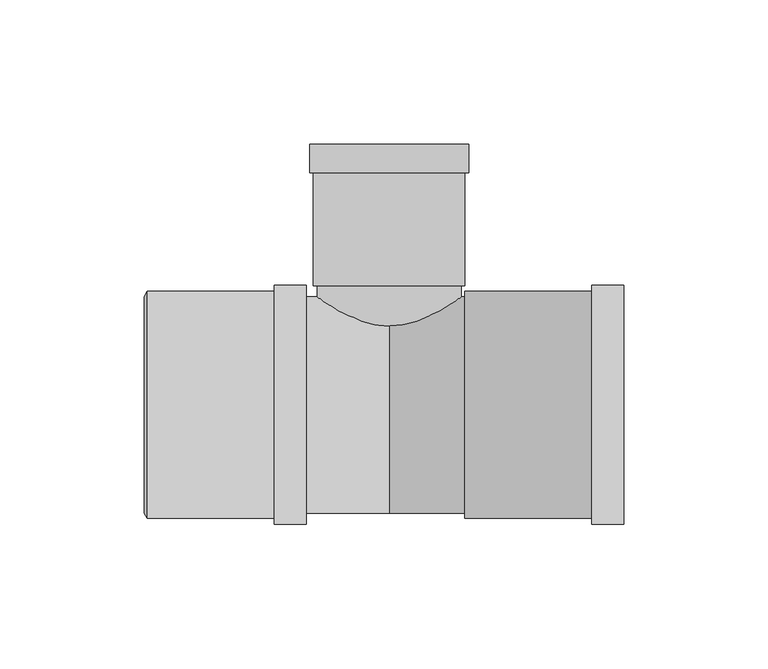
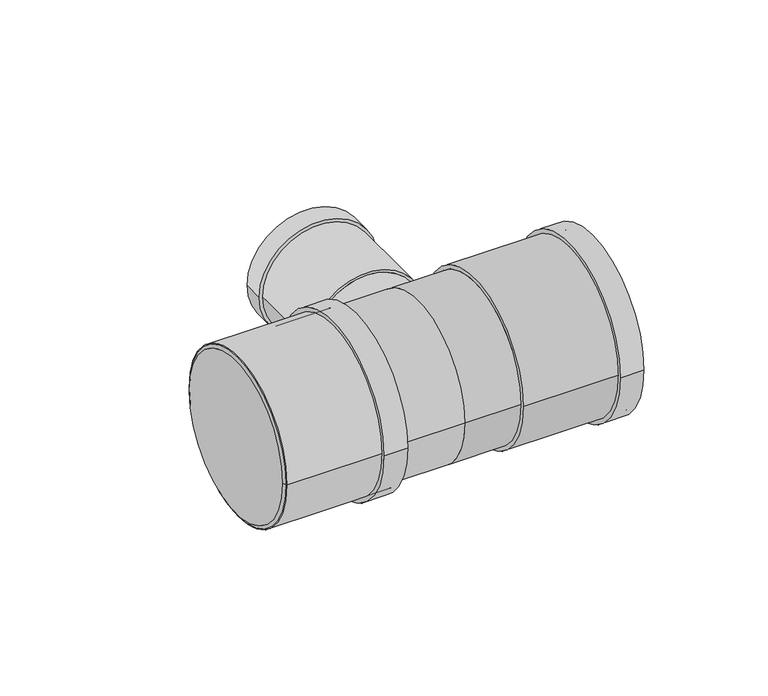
"""IFC4 building model written with IfcOpenShell, lengths in millimetres: pipe fitting geometry, Superdrain HTEA Branch : Superdrain HTEA Branch."""

from ifc_helpers import new_model, si_unit, point, frame, origin, origin_2d, place, context, project, spatial, polyline, circle_curve, trimmed, segment, composite_curve, outline, extrude, source, transform, mapped, element, save
from ifc_brep_helpers import plane_surface, revolved_surface, advanced_brep


def pipe_fitting_f1989bd6(model_context):
    return source(origin(), model_context, "Body", "SolidModel", [
        extrude(outline(composite_curve([segment(trimmed(circle_curve(origin_2d(), 39.375), [point((39.375, 0.0))], [point((-39.375, 0.0))], False, "CARTESIAN"), True, "CONTINUOUS"), segment(trimmed(circle_curve(origin_2d(), 39.375), [point((-39.375, 0.0))], [point((39.375, 0.0))], False, "CARTESIAN"), True, "CONTINUOUS")], self_intersect=False), holes=[composite_curve([segment(trimmed(circle_curve(origin_2d(), 37.5), [point((37.5, 0.0))], [point((-37.5, 0.0))], True, "CARTESIAN"), True, "CONTINUOUS"), segment(trimmed(circle_curve(origin_2d(), 37.5), [point((-37.5, 0.0))], [point((37.5, 0.0))], True, "CARTESIAN"), True, "CONTINUOUS")], self_intersect=False)]), frame((-83.8, 0.0, 0.0), z_axis=(1.0, 0.0, 0.0), x_axis=(0.0, 1.0, 0.0)), (0.0, 0.0, 1.0), 55.0),
        extrude(outline(composite_curve([segment(trimmed(circle_curve(origin_2d(), 41.34375), [point((41.34375, 0.0))], [point((-41.34375, 0.0))], False, "CARTESIAN"), True, "CONTINUOUS"), segment(trimmed(circle_curve(origin_2d(), 41.34375), [point((-41.34375, 0.0))], [point((41.34375, 0.0))], False, "CARTESIAN"), True, "CONTINUOUS")], self_intersect=False), holes=[composite_curve([segment(trimmed(circle_curve(origin_2d(), 37.5), [point((37.5, 0.0))], [point((-37.5, 0.0))], True, "CARTESIAN"), True, "CONTINUOUS"), segment(trimmed(circle_curve(origin_2d(), 37.5), [point((-37.5, 0.0))], [point((37.5, 0.0))], True, "CARTESIAN"), True, "CONTINUOUS")], self_intersect=False)]), frame((-39.8, 0.0, 0.0), z_axis=(1.0, 0.0, 0.0), x_axis=(0.0, 1.0, 0.0)), (0.0, 0.0, 1.0), 11.0),
        advanced_brep(
        [(-84.8, 37.5, 0.0), (-84.8, -37.5, 0.0), (-83.8, 39.375, 0.0), (-83.8, -39.375, 0.0)],
        [
            (0, 1, circle_curve(frame((-84.8, 0.0, 0.0), z_axis=(-1.0, 0.0, 0.0), x_axis=(0.0, 1.0, 0.0)), 37.5)),
            (1, 0, circle_curve(frame((-84.8, 0.0, 0.0), z_axis=(-1.0, 0.0, 0.0), x_axis=(0.0, -1.0, 0.0)), 37.5)),
            (2, 3, circle_curve(frame((-83.8, 0.0, 0.0), z_axis=(1.0, 0.0, 0.0), x_axis=(0.0, -1.0, 0.0)), 39.375)),
            (3, 2, circle_curve(frame((-83.8, 0.0, 0.0), z_axis=(1.0, 0.0, 0.0), x_axis=(0.0, 1.0, 0.0)), 39.375)),
            (3, 1),
            (0, 2),
        ],
        [
            plane_surface(frame((-84.8, 0.0, 0.0), z_axis=(-1.0, 0.0, 0.0), x_axis=(0.0, 0.0, -1.0))),
            plane_surface(frame((-83.8, 0.0, 0.0), z_axis=(1.0, 0.0, 0.0), x_axis=(0.0, 0.0, -1.0))),
            revolved_surface(polyline([(-84.8, 37.5, 0.0), (-83.8, 39.375, 0.0)]), (-104.8, 0.0, 0.0), (1.0, 0.0, 0.0)),
            revolved_surface(polyline([(-84.8, -37.5, 0.0), (-83.8, -39.375, 0.0)]), (-104.8, 0.0, 0.0), (1.0, 0.0, 0.0)),
        ],
        [
            (0, [[1, 2]]),
            (1, [[3, 4]]),
            (2, [[-4, 5, -1, 6]]),
            (3, [[-3, -6, -2, -5]]),
        ],
    ),
        extrude(outline(composite_curve([segment(trimmed(circle_curve(origin_2d(), 39.375), [point((-39.375, 0.0))], [point((39.375, 0.0))], False, "CARTESIAN"), True, "CONTINUOUS"), segment(trimmed(circle_curve(origin_2d(), 39.375), [point((39.375, 0.0))], [point((-39.375, 0.0))], False, "CARTESIAN"), True, "CONTINUOUS")], self_intersect=False), holes=[composite_curve([segment(trimmed(circle_curve(origin_2d(), 37.5), [point((37.5, 0.0))], [point((-37.5, 0.0))], True, "CARTESIAN"), True, "CONTINUOUS"), segment(trimmed(circle_curve(origin_2d(), 37.5), [point((-37.5, 0.0))], [point((37.5, 0.0))], True, "CARTESIAN"), True, "CONTINUOUS")], self_intersect=False)]), frame((26.2, 0.0, 0.0), z_axis=(1.0, 0.0, 0.0), x_axis=(0.0, 1.0, 0.0)), (0.0, 0.0, 1.0), 55.0),
        extrude(outline(composite_curve([segment(trimmed(circle_curve(origin_2d(), 41.34375), [point((41.34375, 0.0))], [point((-41.34375, 0.0))], False, "CARTESIAN"), True, "CONTINUOUS"), segment(trimmed(circle_curve(origin_2d(), 41.34375), [point((-41.34375, 0.0))], [point((41.34375, 0.0))], False, "CARTESIAN"), True, "CONTINUOUS")], self_intersect=False), holes=[composite_curve([segment(trimmed(circle_curve(origin_2d(), 37.5), [point((37.5, 0.0))], [point((-37.5, 0.0))], True, "CARTESIAN"), True, "CONTINUOUS"), segment(trimmed(circle_curve(origin_2d(), 37.5), [point((-37.5, 0.0))], [point((37.5, 0.0))], True, "CARTESIAN"), True, "CONTINUOUS")], self_intersect=False)]), frame((70.2, 0.0, 0.0), z_axis=(1.0, 0.0, 0.0), x_axis=(0.0, 1.0, 0.0)), (0.0, 0.0, 1.0), 11.0),
        extrude(outline(composite_curve([segment(trimmed(circle_curve(origin_2d(), 25.0), [point((0.0, 25.0))], [point((0.0, -25.0))], False, "CARTESIAN"), True, "CONTINUOUS"), segment(trimmed(circle_curve(origin_2d(), 25.0), [point((0.0, -25.0))], [point((0.0, 25.0))], False, "CARTESIAN"), True, "CONTINUOUS")], self_intersect=False)), frame((0.0, 0.0, 0.0), z_axis=(0.0, 1.0, 0.0), x_axis=(0.0, 0.0, 1.0)), (0.0, 0.0, 1.0), 41.2),
        extrude(outline(composite_curve([segment(trimmed(circle_curve(origin_2d(), 37.5), [point((37.5, 0.0))], [point((-37.5, 0.0))], False, "CARTESIAN"), True, "CONTINUOUS"), segment(trimmed(circle_curve(origin_2d(), 37.5), [point((-37.5, 0.0))], [point((37.5, 0.0))], False, "CARTESIAN"), True, "CONTINUOUS")], self_intersect=False)), frame((-83.8, 0.0, 0.0), z_axis=(1.0, 0.0, 0.0), x_axis=(0.0, 1.0, 0.0)), (0.0, 0.0, 1.0), 83.8),
        extrude(outline(composite_curve([segment(trimmed(circle_curve(origin_2d(), 37.5), [point((-37.5, 0.0))], [point((37.5, 0.0))], False, "CARTESIAN"), True, "CONTINUOUS"), segment(trimmed(circle_curve(origin_2d(), 37.5), [point((37.5, 0.0))], [point((-37.5, 0.0))], False, "CARTESIAN"), True, "CONTINUOUS")], self_intersect=False)), frame((0.0, 0.0, 0.0), z_axis=(1.0, 0.0, 0.0), x_axis=(0.0, 1.0, 0.0)), (0.0, 0.0, 1.0), 26.2),
        extrude(outline(composite_curve([segment(trimmed(circle_curve(origin_2d(), 27.5625), [point((0.0, 27.5625))], [point((0.0, -27.5625))], False, "CARTESIAN"), True, "CONTINUOUS"), segment(trimmed(circle_curve(origin_2d(), 27.5625), [point((0.0, -27.5625))], [point((0.0, 27.5625))], False, "CARTESIAN"), True, "CONTINUOUS")], self_intersect=False), holes=[composite_curve([segment(trimmed(circle_curve(origin_2d(), 25.0), [point((0.0, 25.0))], [point((0.0, -25.0))], True, "CARTESIAN"), True, "CONTINUOUS"), segment(trimmed(circle_curve(origin_2d(), 25.0), [point((0.0, -25.0))], [point((0.0, 25.0))], True, "CARTESIAN"), True, "CONTINUOUS")], self_intersect=False)]), frame((0.0, 80.4, 0.0), z_axis=(0.0, 1.0, 0.0), x_axis=(0.0, 0.0, 1.0)), (0.0, 0.0, 1.0), 9.8),
        extrude(outline(composite_curve([segment(trimmed(circle_curve(origin_2d(), 26.25), [point((0.0, 26.25))], [point((0.0, -26.25))], False, "CARTESIAN"), True, "CONTINUOUS"), segment(trimmed(circle_curve(origin_2d(), 26.25), [point((0.0, -26.25))], [point((0.0, 26.25))], False, "CARTESIAN"), True, "CONTINUOUS")], self_intersect=False), holes=[composite_curve([segment(trimmed(circle_curve(origin_2d(), 25.0), [point((0.0, 25.0))], [point((0.0, -25.0))], True, "CARTESIAN"), True, "CONTINUOUS"), segment(trimmed(circle_curve(origin_2d(), 25.0), [point((0.0, -25.0))], [point((0.0, 25.0))], True, "CARTESIAN"), True, "CONTINUOUS")], self_intersect=False)]), frame((0.0, 41.2, 0.0), z_axis=(0.0, 1.0, 0.0), x_axis=(0.0, 0.0, 1.0)), (0.0, 0.0, 1.0), 49.0),
    ])


if __name__ == "__main__":
    model = new_model("IFC4")
    model_context = context("Model", 3, world=origin())
    ifc_project = project(units=[si_unit("LENGTHUNIT", "METRE", prefix="MILLI")], contexts=[model_context])
    site = spatial("IfcSite", under=ifc_project)
    building = spatial("IfcBuilding", under=site)
    placement = place(None, origin())
    pipe_fitting_shape = pipe_fitting_f1989bd6(model_context)
    element("IfcPipeFitting", 1, ObjectType="Superdrain HTEA Branch : Superdrain HTEA Branch", at=placement, inside=building, context=model_context, shape_type="MappedRepresentation", body=[
        mapped(pipe_fitting_shape, transform((0.0, 0.0, 0.0), x_axis=(1.0, 0.0, 0.0), y_axis=(0.0, 1.0, 0.0), z_axis=(0.0, 0.0, 1.0))),
    ])
    save(model, "model.ifc")
